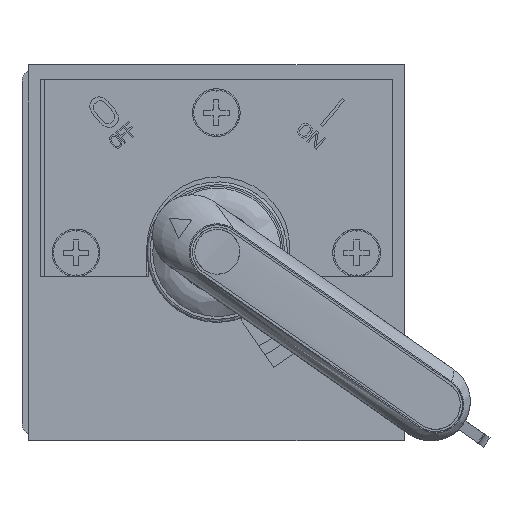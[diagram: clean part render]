
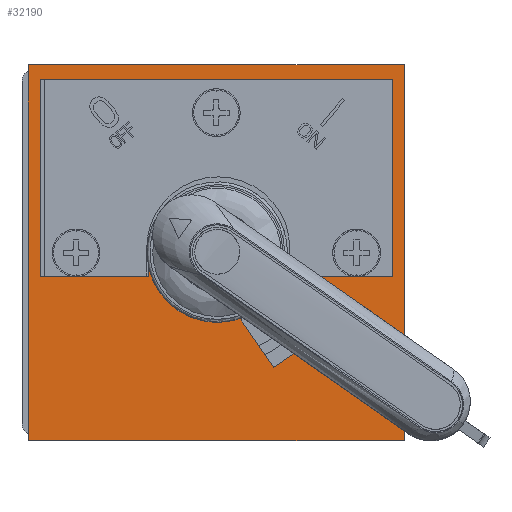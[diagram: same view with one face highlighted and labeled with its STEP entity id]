
A CAD part, top view. The second image highlights one B-rep face of the part: STEP entity #32190.
In plain terms, the highlighted planar face has unit normal (0, 0, 1).
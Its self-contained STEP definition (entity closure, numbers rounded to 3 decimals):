
#138 = EDGE_CURVE ( 'NONE', #34091, #19780, #14240, .T. ) ;
#351 = DIRECTION ( 'NONE',  ( 0.573, -0.819, 0. ) ) ;
#421 = CARTESIAN_POINT ( 'NONE',  ( -17.706, -14.172, 5.4 ) ) ;
#973 = VERTEX_POINT ( 'NONE', #13973 ) ;
#1369 = ORIENTED_EDGE ( 'NONE', *, *, #35684, .F. ) ;
#1565 = AXIS2_PLACEMENT_3D ( 'NONE', #23337, #31167, #34434 ) ;
#1724 = VERTEX_POINT ( 'NONE', #12828 ) ;
#2188 = CARTESIAN_POINT ( 'NONE',  ( 30.95, 31.35, 5.4 ) ) ;
#2263 = VERTEX_POINT ( 'NONE', #16235 ) ;
#2520 = VECTOR ( 'NONE', #11736, 1000. ) ;
#3704 = CIRCLE ( 'NONE', #11224, 9.6 ) ;
#3893 = CARTESIAN_POINT ( 'NONE',  ( -17.706, -14.172, 5.4 ) ) ;
#3948 = LINE ( 'NONE', #34468, #35057 ) ;
#4320 = DIRECTION ( 'NONE',  ( 0., -1., 0. ) ) ;
#4548 = LINE ( 'NONE', #9992, #10611 ) ;
#4911 = CARTESIAN_POINT ( 'NONE',  ( -6.85, -6.726, 5.4 ) ) ;
#4987 = CARTESIAN_POINT ( 'NONE',  ( -33.5, 33.5, 5.4 ) ) ;
#5401 = VECTOR ( 'NONE', #8620, 1000. ) ;
#5448 = ORIENTED_EDGE ( 'NONE', *, *, #30065, .F. ) ;
#5755 = DIRECTION ( 'NONE',  ( -0.825, -0.566, 0. ) ) ;
#5762 = ORIENTED_EDGE ( 'NONE', *, *, #13722, .F. ) ;
#5788 = ORIENTED_EDGE ( 'NONE', *, *, #30186, .F. ) ;
#6661 = VERTEX_POINT ( 'NONE', #32843 ) ;
#6689 = CARTESIAN_POINT ( 'NONE',  ( -0.35, 12.1, 5.4 ) ) ;
#7015 = LINE ( 'NONE', #29220, #12437 ) ;
#7232 = DIRECTION ( 'NONE',  ( 1., 0., 0. ) ) ;
#7324 = DIRECTION ( 'NONE',  ( 1., 0., 0. ) ) ;
#7736 = VERTEX_POINT ( 'NONE', #25469 ) ;
#7872 = LINE ( 'NONE', #33326, #22210 ) ;
#8078 = EDGE_CURVE ( 'NONE', #21758, #9828, #31407, .T. ) ;
#8620 = DIRECTION ( 'NONE',  ( 0.825, 0.566, 0. ) ) ;
#8718 = CARTESIAN_POINT ( 'NONE',  ( -20.45, -10.25, 5.4 ) ) ;
#9027 = ORIENTED_EDGE ( 'NONE', *, *, #8078, .T. ) ;
#9334 = ORIENTED_EDGE ( 'NONE', *, *, #18215, .F. ) ;
#9475 = FACE_OUTER_BOUND ( 'NONE', #27779, .T. ) ;
#9822 = CARTESIAN_POINT ( 'NONE',  ( 0., 0., 5.4 ) ) ;
#9828 = VERTEX_POINT ( 'NONE', #4987 ) ;
#9992 = CARTESIAN_POINT ( 'NONE',  ( 30.95, 31.35, 5.4 ) ) ;
#10611 = VECTOR ( 'NONE', #27250, 1000. ) ;
#10619 = AXIS2_PLACEMENT_3D ( 'NONE', #9822, #17994, #29292 ) ;
#10643 = DIRECTION ( 'NONE',  ( -1., 0., 0. ) ) ;
#11038 = ORIENTED_EDGE ( 'NONE', *, *, #21484, .T. ) ;
#11064 = ORIENTED_EDGE ( 'NONE', *, *, #138, .F. ) ;
#11067 = EDGE_CURVE ( 'NONE', #28615, #20800, #22092, .T. ) ;
#11224 = AXIS2_PLACEMENT_3D ( 'NONE', #34341, #20539, #14531 ) ;
#11270 = VECTOR ( 'NONE', #10643, 1000. ) ;
#11736 = DIRECTION ( 'NONE',  ( 0., 1., 0. ) ) ;
#11982 = VECTOR ( 'NONE', #7324, 1000. ) ;
#12088 = LINE ( 'NONE', #26627, #28653 ) ;
#12203 = ORIENTED_EDGE ( 'NONE', *, *, #27999, .F. ) ;
#12410 = VECTOR ( 'NONE', #7232, 1000. ) ;
#12437 = VECTOR ( 'NONE', #4320, 1000. ) ;
#12828 = CARTESIAN_POINT ( 'NONE',  ( 30.95, -31.35, 5.4 ) ) ;
#13312 = DIRECTION ( 'NONE',  ( 0., 1., 0. ) ) ;
#13722 = EDGE_CURVE ( 'NONE', #20800, #34091, #14341, .T. ) ;
#13884 = LINE ( 'NONE', #24982, #19884 ) ;
#13973 = CARTESIAN_POINT ( 'NONE',  ( -4.25, 31.35, 5.4 ) ) ;
#14110 = LINE ( 'NONE', #14286, #2520 ) ;
#14240 = LINE ( 'NONE', #3893, #5401 ) ;
#14286 = CARTESIAN_POINT ( 'NONE',  ( 30.95, -31.35, 5.4 ) ) ;
#14341 = LINE ( 'NONE', #8718, #19936 ) ;
#14412 = VERTEX_POINT ( 'NONE', #15606 ) ;
#14531 = DIRECTION ( 'NONE',  ( 0., 1., 0. ) ) ;
#14596 = ORIENTED_EDGE ( 'NONE', *, *, #35080, .T. ) ;
#15154 = VERTEX_POINT ( 'NONE', #22211 ) ;
#15606 = CARTESIAN_POINT ( 'NONE',  ( 33.5, -33.5, 5.4 ) ) ;
#16235 = CARTESIAN_POINT ( 'NONE',  ( -0.35, -12.1, 5.4 ) ) ;
#16860 = CARTESIAN_POINT ( 'NONE',  ( 33.5, 33.5, 5.4 ) ) ;
#17137 = CARTESIAN_POINT ( 'NONE',  ( -9.25, -2.569, 5.4 ) ) ;
#17612 = LINE ( 'NONE', #28715, #12410 ) ;
#17994 = DIRECTION ( 'NONE',  ( 0., 0., 1. ) ) ;
#18215 = EDGE_CURVE ( 'NONE', #33414, #2263, #20714, .T. ) ;
#18337 = EDGE_CURVE ( 'NONE', #6661, #14412, #32053, .T. ) ;
#18769 = CARTESIAN_POINT ( 'NONE',  ( -33.5, -33.5, 5.4 ) ) ;
#19565 = LINE ( 'NONE', #27363, #11270 ) ;
#19780 = VERTEX_POINT ( 'NONE', #4911 ) ;
#19884 = VECTOR ( 'NONE', #22244, 1000. ) ;
#19936 = VECTOR ( 'NONE', #351, 1000. ) ;
#20019 = FACE_BOUND ( 'NONE', #23717, .T. ) ;
#20069 = CARTESIAN_POINT ( 'NONE',  ( -20.45, -10.25, 5.4 ) ) ;
#20539 = DIRECTION ( 'NONE',  ( 0., 0., 1. ) ) ;
#20714 = CIRCLE ( 'NONE', #1565, 12.1 ) ;
#20800 = VERTEX_POINT ( 'NONE', #20069 ) ;
#21484 = EDGE_CURVE ( 'NONE', #14412, #21758, #7872, .T. ) ;
#21758 = VERTEX_POINT ( 'NONE', #16860 ) ;
#22092 = LINE ( 'NONE', #30479, #31349 ) ;
#22210 = VECTOR ( 'NONE', #13312, 1000. ) ;
#22211 = CARTESIAN_POINT ( 'NONE',  ( -4.25, -12.1, 5.4 ) ) ;
#22244 = DIRECTION ( 'NONE',  ( 0., -1., 0. ) ) ;
#22640 = ORIENTED_EDGE ( 'NONE', *, *, #18337, .T. ) ;
#22871 = CARTESIAN_POINT ( 'NONE',  ( 33.5, 33.5, 5.4 ) ) ;
#23337 = CARTESIAN_POINT ( 'NONE',  ( -0.35, 0., 5.4 ) ) ;
#23717 = EDGE_LOOP ( 'NONE', ( #34505, #12203, #11064, #5762 ) ) ;
#24003 = PLANE ( 'NONE',  #10619 ) ;
#24982 = CARTESIAN_POINT ( 'NONE',  ( -33.5, 33.5, 5.4 ) ) ;
#25469 = CARTESIAN_POINT ( 'NONE',  ( -4.25, 12.1, 5.4 ) ) ;
#26627 = CARTESIAN_POINT ( 'NONE',  ( -4.25, 31.35, 5.4 ) ) ;
#27250 = DIRECTION ( 'NONE',  ( -1., 0., 0. ) ) ;
#27363 = CARTESIAN_POINT ( 'NONE',  ( -0.35, -12.1, 5.4 ) ) ;
#27779 = EDGE_LOOP ( 'NONE', ( #22640, #11038, #9027, #14596 ) ) ;
#27999 = EDGE_CURVE ( 'NONE', #19780, #28615, #3704, .T. ) ;
#28210 = FACE_BOUND ( 'NONE', #32427, .T. ) ;
#28474 = ORIENTED_EDGE ( 'NONE', *, *, #33793, .F. ) ;
#28615 = VERTEX_POINT ( 'NONE', #17137 ) ;
#28653 = VECTOR ( 'NONE', #34279, 1000. ) ;
#28715 = CARTESIAN_POINT ( 'NONE',  ( -4.25, -31.35, 5.4 ) ) ;
#29157 = ORIENTED_EDGE ( 'NONE', *, *, #29431, .F. ) ;
#29220 = CARTESIAN_POINT ( 'NONE',  ( -4.25, -12.1, 5.4 ) ) ;
#29292 = DIRECTION ( 'NONE',  ( 1., 0., 0. ) ) ;
#29381 = DIRECTION ( 'NONE',  ( 1., 0., 0. ) ) ;
#29431 = EDGE_CURVE ( 'NONE', #15154, #35028, #7015, .T. ) ;
#29472 = EDGE_CURVE ( 'NONE', #2263, #15154, #19565, .T. ) ;
#29549 = ORIENTED_EDGE ( 'NONE', *, *, #30964, .F. ) ;
#30065 = EDGE_CURVE ( 'NONE', #1724, #32201, #14110, .T. ) ;
#30186 = EDGE_CURVE ( 'NONE', #7736, #33414, #3948, .T. ) ;
#30479 = CARTESIAN_POINT ( 'NONE',  ( -9.25, -2.569, 5.4 ) ) ;
#30964 = EDGE_CURVE ( 'NONE', #35028, #1724, #17612, .T. ) ;
#30976 = CARTESIAN_POINT ( 'NONE',  ( -4.25, -31.35, 5.4 ) ) ;
#31167 = DIRECTION ( 'NONE',  ( 0., 0., -1. ) ) ;
#31349 = VECTOR ( 'NONE', #5755, 1000. ) ;
#31407 = LINE ( 'NONE', #22871, #34685 ) ;
#32053 = LINE ( 'NONE', #18769, #11982 ) ;
#32190 = ADVANCED_FACE ( 'NONE', ( #28210, #20019, #9475 ), #24003, .T. ) ;
#32201 = VERTEX_POINT ( 'NONE', #2188 ) ;
#32427 = EDGE_LOOP ( 'NONE', ( #5448, #29549, #29157, #32678, #9334, #5788, #28474, #1369 ) ) ;
#32678 = ORIENTED_EDGE ( 'NONE', *, *, #29472, .F. ) ;
#32843 = CARTESIAN_POINT ( 'NONE',  ( -33.5, -33.5, 5.4 ) ) ;
#33326 = CARTESIAN_POINT ( 'NONE',  ( 33.5, -33.5, 5.4 ) ) ;
#33414 = VERTEX_POINT ( 'NONE', #6689 ) ;
#33777 = DIRECTION ( 'NONE',  ( -1., 0., 0. ) ) ;
#33793 = EDGE_CURVE ( 'NONE', #973, #7736, #12088, .T. ) ;
#34091 = VERTEX_POINT ( 'NONE', #421 ) ;
#34279 = DIRECTION ( 'NONE',  ( 0., -1., 0. ) ) ;
#34341 = CARTESIAN_POINT ( 'NONE',  ( 0., 0., 5.4 ) ) ;
#34434 = DIRECTION ( 'NONE',  ( 0., 1., 0. ) ) ;
#34468 = CARTESIAN_POINT ( 'NONE',  ( -4.25, 12.1, 5.4 ) ) ;
#34505 = ORIENTED_EDGE ( 'NONE', *, *, #11067, .F. ) ;
#34685 = VECTOR ( 'NONE', #33777, 1000. ) ;
#35028 = VERTEX_POINT ( 'NONE', #30976 ) ;
#35057 = VECTOR ( 'NONE', #29381, 1000. ) ;
#35080 = EDGE_CURVE ( 'NONE', #9828, #6661, #13884, .T. ) ;
#35684 = EDGE_CURVE ( 'NONE', #32201, #973, #4548, .T. ) ;
